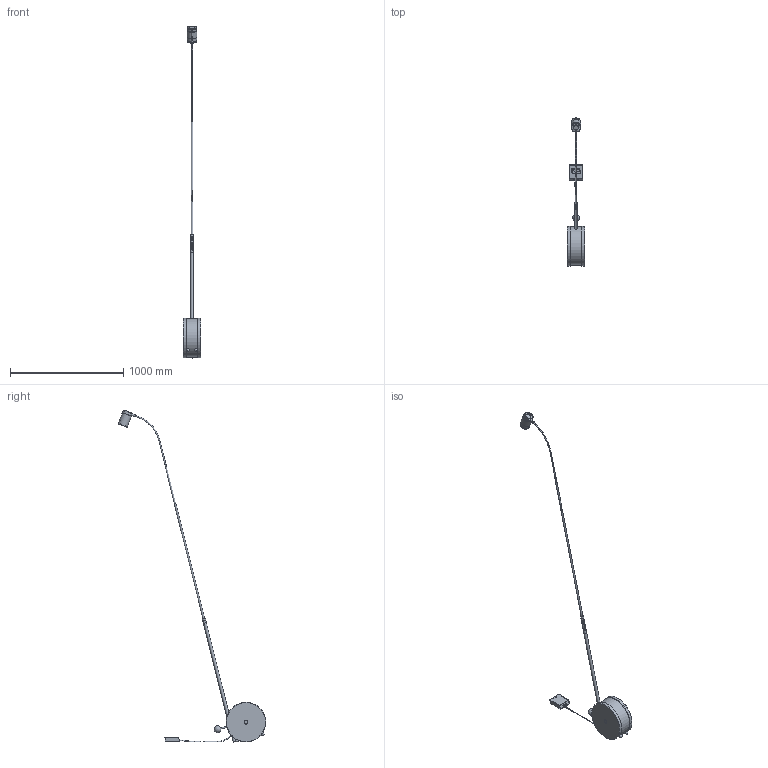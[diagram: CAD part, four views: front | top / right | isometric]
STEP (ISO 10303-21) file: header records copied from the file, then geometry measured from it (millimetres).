
FILE_DESCRIPTION(/* description */ (''),/* implementation_level */ '2;1');
FILE_NAME(/* name */ 'ASM chiocciola floor_MAX INCLINAZ-MAX ESTENS.step',/* time_stamp */ '2023-03-02T15:14:26+01:00',/* author */ (''),/* organization */ (''),/* preprocessor_version */ 'ST-DEVELOPER v19.2',/* originating_system */ 'Autodesk Translation Framework v11.17.0.187',/* authorisation */ '');
FILE_SCHEMA (('AUTOMOTIVE_DESIGN { 1 0 10303 214 3 1 1 }'));
Products named in the file (62): ASM chiocciola floor; Gruppo Aste; Gruppo Scorrevole; Ass_Contrappeso Asta v5; Tige Fe M13x1 L20; Giunto Scorrevole per Chiocciola Floor; Molla a compress; Sfera D8; Chiocciola_Tubo_02; Chiocciola_Tubo_02_1; Chiocciola_Tubo_04; Grano Punta Piana M4x4; Chiocciola Boccola Asta 25; Chiocciola_Tubo_01; Assieme Pedale Quadro; BLOCCACAVO STEAB 5100_7_08_26; Dado M10x1_STEAB 5339; BLOCCACAVO STEAB 5100_7_08_26_1; STEAB 5408_4_10; PUSH-BUTTON; PULSANTE; 91800A015_18-8 Stainless Steel Narrow Cheese Head Slotted Screws; Ghiera bottone pedale; Driver  TCI 127492BIS; CALOTTA BL715-488787425; BASE BL714-488787424; BJB Terminal Block 2 Poles 46.412.1200.50; BJB Terminal Block 3 Poles 46.413.1214.50; 002YR0HY04-1; 002YR0HY04-2; Distanziatore Tasto pedale; Vite_TC M4x25; Vite_TC M3x15; Lamierino porta Tasto; Copertura Pedaliera Quadro; Base Pedaliera Quadro; Vite_TS M4x8; Vite_TC M4x6; Piedini Autoadesivi; 97985A530_Zinc-Plated Steel External-Tooth Lock Washer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
Assembly tree (86 placements, depth 5):
  ASM chiocciola floor
    Gruppo Aste
      Gruppo Scorrevole
        Ass_Contrappeso Asta v5
          Tige Fe M13x1 L20
          Giunto Scorrevole per Chiocciola Floor
          Molla a compress  x5
          Sfera D8  x5
        Chiocciola_Tubo_02
        Chiocciola_Tubo_02_1
        Chiocciola_Tubo_04
      Grano Punta Piana M4x4
      Chiocciola Boccola Asta 25
      Chiocciola_Tubo_01
    Assieme Pedale Quadro
      BLOCCACAVO STEAB 5100_7_08_26
        STEAB 5408_4_10
      Dado M10x1_STEAB 5339  x2
      BLOCCACAVO STEAB 5100_7_08_26_1
        STEAB 5408_4_10
      PUSH-BUTTON
        PULSANTE  x2
        91800A015_18-8 Stainless Steel Narrow Cheese Head Slotted Screws  x2
      Ghiera bottone pedale
      Driver  TCI 127492BIS
        CALOTTA BL715-488787425
        BASE BL714-488787424
      BJB Terminal Block 2 Poles 46.412.1200.50
      BJB Terminal Block 3 Poles 46.413.1214.50
        002YR0HY04-1
        002YR0HY04-2
      Distanziatore Tasto pedale  x2
      Vite_TC M4x25  x2
      Vite_TC M3x15  x2
      Lamierino porta Tasto
      Copertura Pedaliera Quadro
      Base Pedaliera Quadro
      Vite_TS M4x8  x2
      Vite_TC M4x6  x2
      Piedini Autoadesivi  x4
      97985A530_Zinc-Plated Steel External-Tooth Lock Washer
      Vite_TC M4x4
    Chiocciola Ruota in Legno
    Chiocciola Flangia U
    Chioccila Flangia Interna
    Chiocciola Perno Sfera
    Chiocciola Sfera
    Chiocciola Dado Cilindrico Ruota  x2
    Chiocciola Sferetta Finecorsa Floor  x4
    Chiocciola Ruota in Marmo  x2
    Rondella Nylon De30 Di10 Sp0,5
    Chiocciola Piede Floor
    Rayconn - ALT85 - Braccio 30
      SPOT
      ARM
      COB LENS
      LED PCB v12
        LAMIERA LED SUPERIORE v12
        LED GROUP
          LED (1)
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Bounding box: 157 x 1302.91 x 2929.89 mm (x, y, z)
Volume: 14599774 mm3; surface area: 1412829.4 mm2
Topology: 79 solids, 79 shells, 3465 faces, 8751 edges, 5598 vertices
Faces by surface type: plane 1720, cylinder 833, bspline 535, torus 156, cone 116, sphere 105
Full cylindrical faces by diameter (mm): 1.2 x5, 1.933 x2, 2.3 x10, 2.4 x5, 2.5 x4, 2.529 x3, 2.927 x2, 3 x4, 3.332 x7, 3.5 x4, 3.8 x2, 3.9 x5, 3.908 x8, 4.2 x3, 4.3 x1, 4.5 x9, 4.901 x4, 5 x8, 5.6 x3, 5.8 x2, 6 x7, 6.035 x2, 6.884 x2, 7 x2, 7.2 x2, 8 x8, 8.1 x5, 8.526 x1, 9 x1, 9.036 x8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
Entity records: 124786 total; most frequent: CARTESIAN_POINT 45354, ORIENTED_EDGE 16284, DIRECTION 15519, EDGE_CURVE 8142, AXIS2_PLACEMENT_3D 5426, VERTEX_POINT 5215, LINE 4667, VECTOR 4667
